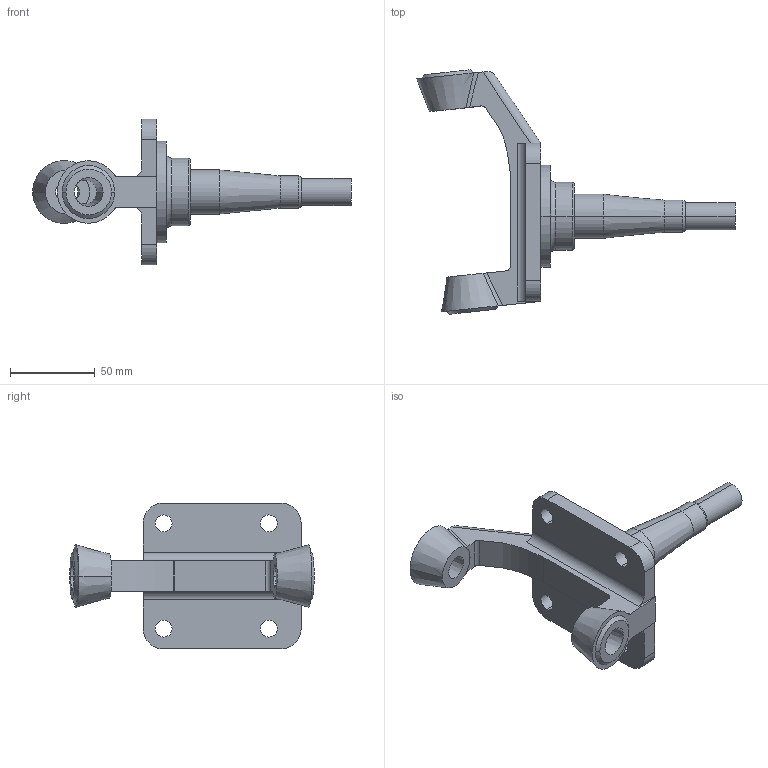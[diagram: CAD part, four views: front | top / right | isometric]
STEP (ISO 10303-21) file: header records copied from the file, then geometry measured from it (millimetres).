
FILE_DESCRIPTION (( 'STEP AP214' ), '1' );
FILE_NAME ('kulak_klassika.STEP', '2011-08-05T08:28:41', ( 'www.PHILka.RU' ), ( 'WareZ Provider ' ), 'SwSTEP 2.0', 'SolidWorks 2009', '' );
FILE_SCHEMA (( 'AUTOMOTIVE_DESIGN' ));
Length unit declared in the file: millimetre
Products named in the file (1): kulak_klassika
Bounding box: 187.69 x 143.92 x 86 mm (x, y, z)
Volume: 193354.5 mm3; surface area: 40600.2 mm2
Topology: 1 solids, 1 shells, 78 faces, 198 edges, 128 vertices
Faces by surface type: cylinder 30, plane 24, cone 15, bspline 5, torus 4
Entity records: 2619 total; most frequent: CARTESIAN_POINT 682, DIRECTION 406, ORIENTED_EDGE 396, EDGE_CURVE 198, AXIS2_PLACEMENT_3D 160, VERTEX_POINT 128, EDGE_LOOP 96, CIRCLE 86
